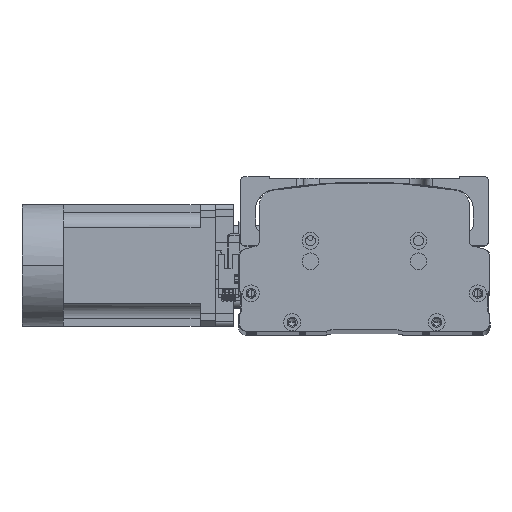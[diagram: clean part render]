
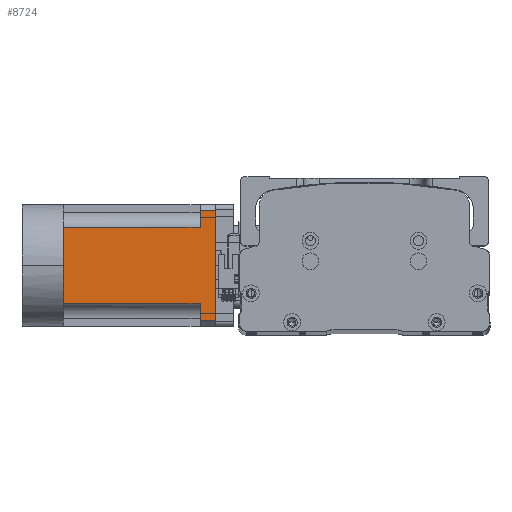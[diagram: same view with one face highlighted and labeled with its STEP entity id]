
A CAD part, top view. The second image highlights one B-rep face of the part: STEP entity #8724.
In plain terms, the highlighted planar face has unit normal (0, -0.003, 1) as drawn and (0, 0, -1) by its records, which use the part's own axes.
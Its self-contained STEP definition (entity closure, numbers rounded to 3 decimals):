
#22 = VERTEX_POINT ( 'NONE', #51085 ) ;
#659 = CARTESIAN_POINT ( 'NONE',  ( 25., 90., -40. ) ) ;
#1948 = DIRECTION ( 'NONE',  ( -1., 0., 0. ) ) ;
#2366 = VERTEX_POINT ( 'NONE', #41576 ) ;
#2543 = DIRECTION ( 'NONE',  ( 0., 1., 0. ) ) ;
#2876 = DIRECTION ( 'NONE',  ( -1., 0., 0. ) ) ;
#2918 = EDGE_CURVE ( 'NONE', #43464, #23624, #22542, .T. ) ;
#5093 = CARTESIAN_POINT ( 'NONE',  ( -40., 90., -40. ) ) ;
#5768 = VECTOR ( 'NONE', #2876, 1000. ) ;
#5911 = PLANE ( 'NONE',  #12885 ) ;
#6227 = VECTOR ( 'NONE', #7600, 1000. ) ;
#6665 = LINE ( 'NONE', #34701, #15977 ) ;
#7287 = CARTESIAN_POINT ( 'NONE',  ( 36., -27., -40. ) ) ;
#7600 = DIRECTION ( 'NONE',  ( 0., -1., 0. ) ) ;
#8058 = ORIENTED_EDGE ( 'NONE', *, *, #35268, .T. ) ;
#8724 = ADVANCED_FACE ( 'NONE', ( #45471 ), #5911, .T. ) ;
#9523 = LINE ( 'NONE', #50064, #39919 ) ;
#9916 = DIRECTION ( 'NONE',  ( 0., 0., -1. ) ) ;
#11029 = EDGE_CURVE ( 'NONE', #40970, #22722, #24755, .T. ) ;
#11481 = LINE ( 'NONE', #24690, #20851 ) ;
#11920 = CARTESIAN_POINT ( 'NONE',  ( 36., 100., -40. ) ) ;
#12266 = CARTESIAN_POINT ( 'NONE',  ( 36., 90., -40. ) ) ;
#12677 = DIRECTION ( 'NONE',  ( 0., 1., 0. ) ) ;
#12885 = AXIS2_PLACEMENT_3D ( 'NONE', #25732, #9916, #37670 ) ;
#14643 = CARTESIAN_POINT ( 'NONE',  ( -40., 90., -40. ) ) ;
#15292 = ORIENTED_EDGE ( 'NONE', *, *, #27411, .T. ) ;
#15977 = VECTOR ( 'NONE', #18967, 1000. ) ;
#16335 = LINE ( 'NONE', #14643, #5768 ) ;
#18967 = DIRECTION ( 'NONE',  ( -1., 0., 0. ) ) ;
#19672 = ORIENTED_EDGE ( 'NONE', *, *, #30783, .T. ) ;
#19831 = ORIENTED_EDGE ( 'NONE', *, *, #28603, .F. ) ;
#20391 = LINE ( 'NONE', #7287, #30897 ) ;
#20396 = DIRECTION ( 'NONE',  ( -1., 0., 0. ) ) ;
#20851 = VECTOR ( 'NONE', #12677, 1000. ) ;
#20966 = EDGE_CURVE ( 'NONE', #40409, #40970, #36633, .T. ) ;
#21026 = VERTEX_POINT ( 'NONE', #11920 ) ;
#22542 = LINE ( 'NONE', #5093, #23760 ) ;
#22722 = VERTEX_POINT ( 'NONE', #23974 ) ;
#23581 = ORIENTED_EDGE ( 'NONE', *, *, #30715, .T. ) ;
#23624 = VERTEX_POINT ( 'NONE', #42111 ) ;
#23760 = VECTOR ( 'NONE', #48650, 1000. ) ;
#23974 = CARTESIAN_POINT ( 'NONE',  ( 0., 0., -40. ) ) ;
#24341 = CARTESIAN_POINT ( 'NONE',  ( -40., 100., -40. ) ) ;
#24344 = CARTESIAN_POINT ( 'NONE',  ( 25., 0., -40. ) ) ;
#24690 = CARTESIAN_POINT ( 'NONE',  ( -36., -27., -40. ) ) ;
#24755 = LINE ( 'NONE', #29718, #34042 ) ;
#25122 = ORIENTED_EDGE ( 'NONE', *, *, #28641, .T. ) ;
#25732 = CARTESIAN_POINT ( 'NONE',  ( -40., -27., -40. ) ) ;
#25804 = VECTOR ( 'NONE', #20396, 1000. ) ;
#27411 = EDGE_CURVE ( 'NONE', #21026, #37943, #20391, .T. ) ;
#28295 = LINE ( 'NONE', #24341, #25804 ) ;
#28603 = EDGE_CURVE ( 'NONE', #21026, #2366, #28295, .T. ) ;
#28641 = EDGE_CURVE ( 'NONE', #23624, #2366, #11481, .T. ) ;
#29718 = CARTESIAN_POINT ( 'NONE',  ( -40., 0., -40. ) ) ;
#30715 = EDGE_CURVE ( 'NONE', #22, #43464, #9523, .T. ) ;
#30783 = EDGE_CURVE ( 'NONE', #37943, #40409, #16335, .T. ) ;
#30897 = VECTOR ( 'NONE', #31044, 1000. ) ;
#31044 = DIRECTION ( 'NONE',  ( 0., -1., 0. ) ) ;
#32277 = ORIENTED_EDGE ( 'NONE', *, *, #11029, .T. ) ;
#34042 = VECTOR ( 'NONE', #1948, 1000. ) ;
#34701 = CARTESIAN_POINT ( 'NONE',  ( -40., 0., -40. ) ) ;
#35268 = EDGE_CURVE ( 'NONE', #22722, #22, #6665, .T. ) ;
#35337 = CARTESIAN_POINT ( 'NONE',  ( 25., -27., -40. ) ) ;
#36633 = LINE ( 'NONE', #35337, #6227 ) ;
#37670 = DIRECTION ( 'NONE',  ( -1., 0., 0. ) ) ;
#37943 = VERTEX_POINT ( 'NONE', #12266 ) ;
#38805 = ORIENTED_EDGE ( 'NONE', *, *, #2918, .T. ) ;
#39342 = CARTESIAN_POINT ( 'NONE',  ( -25., 90., -40. ) ) ;
#39919 = VECTOR ( 'NONE', #2543, 1000. ) ;
#40409 = VERTEX_POINT ( 'NONE', #659 ) ;
#40970 = VERTEX_POINT ( 'NONE', #24344 ) ;
#41576 = CARTESIAN_POINT ( 'NONE',  ( -36., 100., -40. ) ) ;
#42111 = CARTESIAN_POINT ( 'NONE',  ( -36., 90., -40. ) ) ;
#42567 = ORIENTED_EDGE ( 'NONE', *, *, #20966, .T. ) ;
#43464 = VERTEX_POINT ( 'NONE', #39342 ) ;
#45471 = FACE_OUTER_BOUND ( 'NONE', #45945, .T. ) ;
#45945 = EDGE_LOOP ( 'NONE', ( #19831, #15292, #19672, #42567, #32277, #8058, #23581, #38805, #25122 ) ) ;
#48650 = DIRECTION ( 'NONE',  ( -1., 0., 0. ) ) ;
#50064 = CARTESIAN_POINT ( 'NONE',  ( -25., -27., -40. ) ) ;
#51085 = CARTESIAN_POINT ( 'NONE',  ( -25., 0., -40. ) ) ;
